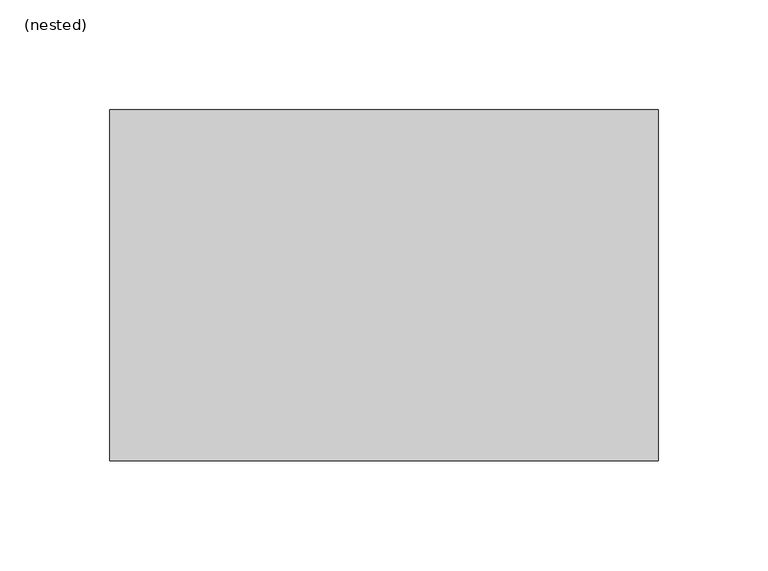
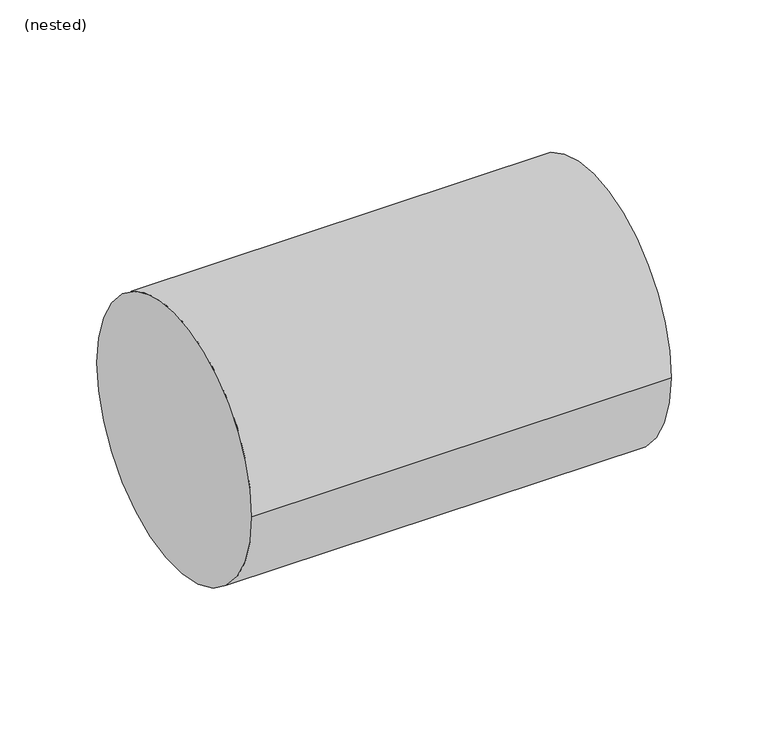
"""IFC4 building model written with IfcOpenShell, lengths in millimetres: pipe segment geometry, NLRS_52_PIF_UN_PE buis_SH_geb : (nested)."""

import ifcopenshell
import ifcopenshell.guid

model = None  # the IFC model being written
_history = None  # IfcOwnerHistory: only IFC2X3 demands one
_inside = {}  # id of a spatial element -> (the spatial element, [elements in it])
_under = {}  # id of a project, library or spatial element -> (it, [spatial elements below it])
_declared = {}  # id of a project -> (the project, [libraries it declares])
_typed = {}  # id of a type object -> (the type object, [elements of that type])
_made_of = {}  # id of a material, layer set ... -> (it, [elements and type objects made of it])


def new_model(schema):
    """Start an empty IFC model of exactly this schema.

    Asked for "IFC4X3", IfcOpenShell would pick the latest addendum, in which some entities
    have other attributes; the version numbers below select the first issue.
    IFC2X3 requires an IfcOwnerHistory on every rooted entity: one is made here for all.
    """
    global model, _history
    if schema == "IFC4X3":
        model = ifcopenshell.file(schema_version=(4, 3, 0, 0))
    else:
        model = ifcopenshell.file(schema=schema)
    _inside.clear()
    _under.clear()
    _declared.clear()
    _typed.clear()
    _made_of.clear()
    _history = None
    if model.schema == "IFC2X3":
        org = make("IfcOrganization", Name="unknown")
        user = make(
            "IfcPersonAndOrganization",
            ThePerson=make("IfcPerson", FamilyName="unknown"),
            TheOrganization=org,
        )
        app = make(
            "IfcApplication",
            ApplicationDeveloper=org,
            Version="unknown",
            ApplicationFullName="unknown",
            ApplicationIdentifier="unknown",
        )
        _history = make(
            "IfcOwnerHistory",
            OwningUser=user,
            OwningApplication=app,
            ChangeAction="ADDED",
            CreationDate=0,
        )
    return model


def make(cls, **values):
    """One entity of the class cls with the attributes given. An attribute that is None is left unset."""
    return model.create_entity(
        cls, **{name: value for name, value in values.items() if value is not None}
    )


def rooted(cls, **values):
    """An entity with a GlobalId (a new one), such as an element, a storey or a relation."""
    return make(cls, GlobalId=ifcopenshell.guid.new(), OwnerHistory=_history, **values)


def si_unit(unit_type, name, prefix=None):
    """IfcSIUnit, for example si_unit("LENGTHUNIT", "METRE", prefix="MILLI")."""
    return make("IfcSIUnit", UnitType=unit_type, Prefix=prefix, Name=name)


def assignment(units):
    """IfcUnitAssignment: the units of a project."""
    return None if units is None else make("IfcUnitAssignment", Units=units)


def point(xyz):
    """IfcCartesianPoint."""
    return None if xyz is None else make("IfcCartesianPoint", Coordinates=xyz)


def direction(xyz):
    """IfcDirection."""
    return None if xyz is None else make("IfcDirection", DirectionRatios=xyz)


def frame(location, z_axis=None, x_axis=None):
    """IfcAxis2Placement3D, a coordinate frame: its origin and axes. An axis left out is left unset."""
    return make(
        "IfcAxis2Placement3D",
        Location=point(location),
        Axis=direction(z_axis),
        RefDirection=direction(x_axis),
    )


def frame_2d(location, x_axis=None):
    """IfcAxis2Placement2D, a coordinate frame in the plane: its origin and x axis."""
    return make(
        "IfcAxis2Placement2D", Location=point(location), RefDirection=direction(x_axis)
    )


def origin():
    """The frame at (0, 0, 0) with its axes left unset."""
    return frame((0.0, 0.0, 0.0))


def origin_2d():
    """The frame at (0, 0) in the plane with its x axis left unset."""
    return frame_2d((0.0, 0.0))


def place(relative_to, where):
    """IfcLocalPlacement: puts the frame where relative to a parent placement (None: the world)."""
    return make(
        "IfcLocalPlacement", PlacementRelTo=relative_to, RelativePlacement=where
    )


def context(
    kind, dimensions, precision=None, world=None, true_north=None, identifier=None
):
    """IfcGeometricRepresentationContext, for example the 3D "Model" context."""
    return make(
        "IfcGeometricRepresentationContext",
        ContextIdentifier=identifier,
        ContextType=kind,
        CoordinateSpaceDimension=dimensions,
        Precision=precision,
        WorldCoordinateSystem=world,
        TrueNorth=true_north,
    )


def project(units=None, contexts=None):
    """IfcProject with its units and contexts."""
    return rooted(
        "IfcProject",
        Name="project",
        RepresentationContexts=contexts,
        UnitsInContext=assignment(units),
    )


def spatial(cls, under=None, at=None, **own):
    """A site, building, storey or space (cls), placed at a placement, below another one or the project."""
    s = rooted(cls, ObjectPlacement=at, **own)
    if under is not None:
        _under.setdefault(under.id(), (under, []))[1].append(s)
    return s


def circle_curve(where, radius):
    """IfcCircle in the frame where."""
    return make("IfcCircle", Position=where, Radius=radius)


def trimmed(basis, trim1, trim2, sense, master):
    """IfcTrimmedCurve: the piece of a basis curve between two trims."""
    return make(
        "IfcTrimmedCurve",
        BasisCurve=basis,
        Trim1=trim1,
        Trim2=trim2,
        SenseAgreement=sense,
        MasterRepresentation=master,
    )


def segment(curve, same_sense, transition):
    """IfcCompositeCurveSegment."""
    return make(
        "IfcCompositeCurveSegment",
        Transition=transition,
        SameSense=same_sense,
        ParentCurve=curve,
    )


def composite_curve(segments, self_intersect=None):
    """IfcCompositeCurve: segments joined end to end."""
    return make("IfcCompositeCurve", Segments=segments, SelfIntersect=self_intersect)


def outline(outer, holes=None, kind="AREA"):
    """IfcArbitraryClosedProfileDef: a profile drawn as a closed curve; with holes, ...WithVoids."""
    if holes is None:
        return make("IfcArbitraryClosedProfileDef", ProfileType=kind, OuterCurve=outer)
    return make(
        "IfcArbitraryProfileDefWithVoids",
        ProfileType=kind,
        OuterCurve=outer,
        InnerCurves=holes,
    )


def extrude(swept, where, along, depth):
    """IfcExtrudedAreaSolid: the profile swept, set in the frame where, extruded along a direction by depth."""
    return make(
        "IfcExtrudedAreaSolid",
        SweptArea=swept,
        Position=where,
        ExtrudedDirection=direction(along),
        Depth=depth,
    )


def shape(context_of_items, identifier, shape_type, items):
    """IfcShapeRepresentation: the items that make up one representation, for example the "Body"."""
    return make(
        "IfcShapeRepresentation",
        ContextOfItems=context_of_items,
        RepresentationIdentifier=identifier,
        RepresentationType=shape_type,
        Items=items,
    )


def source(mapping_origin, context_of_items, identifier, shape_type, items):
    """IfcRepresentationMap: a shape defined once, which mapped items show again and again."""
    return make(
        "IfcRepresentationMap",
        MappingOrigin=mapping_origin,
        MappedRepresentation=shape(context_of_items, identifier, shape_type, items),
    )


def transform(
    local_origin,
    x_axis=None,
    y_axis=None,
    z_axis=None,
    scale=None,
    scale2=None,
    scale3=None,
    uniform=True,
):
    """IfcCartesianTransformationOperator3D, or its non-uniform kind. x_axis, y_axis, z_axis: its Axis1, 2, 3."""
    if uniform:
        return make(
            "IfcCartesianTransformationOperator3D",
            Axis1=direction(x_axis),
            Axis2=direction(y_axis),
            LocalOrigin=point(local_origin),
            Scale=scale,
            Axis3=direction(z_axis),
        )
    return make(
        "IfcCartesianTransformationOperator3DnonUniform",
        Axis1=direction(x_axis),
        Axis2=direction(y_axis),
        LocalOrigin=point(local_origin),
        Scale=scale,
        Axis3=direction(z_axis),
        Scale2=scale2,
        Scale3=scale3,
    )


def mapped(mapping_source, mapping_target):
    """IfcMappedItem: shows the shape of a source again, moved by a transform."""
    return make(
        "IfcMappedItem", MappingSource=mapping_source, MappingTarget=mapping_target
    )


def made_of(thing, what):
    """Note that an element or type object is made of a material, layer set ...; save() writes the relation."""
    if what is not None:
        _made_of.setdefault(what.id(), (what, []))[1].append(thing)
    return thing


def element(
    cls,
    number,
    at=None,
    inside=None,
    cuts=None,
    type_object=None,
    material=None,
    context=None,
    identifier="Body",
    shape_type=None,
    held_by="IfcProductDefinitionShape",
    body=None,
    shapes=None,
    **own,
):
    """One element of the class cls, such as IfcWall. Its Tag is "e" and its number.

    at: its placement. inside: the storey or other place that contains it. cuts: it is an
    opening in that element (IfcRelVoidsElement). A single representation is given by context,
    identifier, shape_type and body (its items); several are given by shapes. held_by: the class
    of the entity that holds the representations. save() writes the other relations.
    """
    e = rooted(cls, Tag="e%d" % number, ObjectPlacement=at, **own)
    if body is not None:
        shapes = [shape(context, identifier, shape_type, body)]
    if shapes is not None:
        e.Representation = make(held_by, Representations=shapes)
    if inside is not None:
        _inside.setdefault(inside.id(), (inside, []))[1].append(e)
    if cuts is not None:
        rooted(
            "IfcRelVoidsElement", RelatingBuildingElement=cuts, RelatedOpeningElement=e
        )
    if type_object is not None:
        _typed.setdefault(type_object.id(), (type_object, []))[1].append(e)
    return made_of(e, material)


def aggregate(whole, parts):
    """IfcRelAggregates: a whole, such as a stair, and the parts it consists of."""
    return rooted("IfcRelAggregates", RelatingObject=whole, RelatedObjects=parts)


def save(model, path):
    """Write the relations noted so far, then the file.

    IfcRelAggregates (storeys below a building ...), IfcRelContainedInSpatialStructure (elements
    in a storey), IfcRelDefinesByType, IfcRelAssociatesMaterial and IfcRelDeclares: one each for
    every whole, place, type object, material and project.
    """
    for whole, parts in _under.values():
        aggregate(whole, parts)
    for where, things in _inside.values():
        rooted(
            "IfcRelContainedInSpatialStructure",
            RelatedElements=things,
            RelatingStructure=where,
        )
    for kind, things in _typed.values():
        rooted("IfcRelDefinesByType", RelatedObjects=things, RelatingType=kind)
    for what, things in _made_of.values():
        rooted("IfcRelAssociatesMaterial", RelatedObjects=things, RelatingMaterial=what)
    for by, libraries in _declared.values():
        rooted("IfcRelDeclares", RelatingContext=by, RelatedDefinitions=libraries)
    model.write(path)


def nested_b3afe5c9(model_context):
    return source(origin(), model_context, "Body", "SweptSolid", [
        extrude(outline(composite_curve([segment(trimmed(circle_curve(origin_2d(), 80.0), [point((80.0, 0.0))], [point((-80.0, 0.0))], False, "CARTESIAN"), True, "CONTINUOUS"), segment(trimmed(circle_curve(origin_2d(), 80.0), [point((-80.0, 0.0))], [point((80.0, 0.0))], False, "CARTESIAN"), True, "CONTINUOUS")], self_intersect=False)), frame((0.0, 0.0, 0.0), z_axis=(1.0, 0.0, 0.0), x_axis=(0.0, 1.0, 0.0)), (0.0, 0.0, 1.0), 250.0),
    ])


if __name__ == "__main__":
    model = new_model("IFC4")
    model_context = context("Model", 3, world=origin())
    ifc_project = project(units=[si_unit("LENGTHUNIT", "METRE", prefix="MILLI")], contexts=[model_context])
    site = spatial("IfcSite", under=ifc_project)
    building = spatial("IfcBuilding", under=site)
    placement = place(None, origin())
    nested_shape = nested_b3afe5c9(model_context)
    element("IfcPipeSegment", 1, ObjectType="NLRS_52_PIF_UN_PE buis_SH_geb : (nested)", at=placement, inside=building, context=model_context, shape_type="MappedRepresentation", body=[
        mapped(nested_shape, transform((0.0, 0.0, 0.0), x_axis=(1.0, 0.0, 0.0), y_axis=(0.0, 1.0, 0.0), z_axis=(0.0, 0.0, 1.0))),
    ])
    save(model, "model.ifc")
